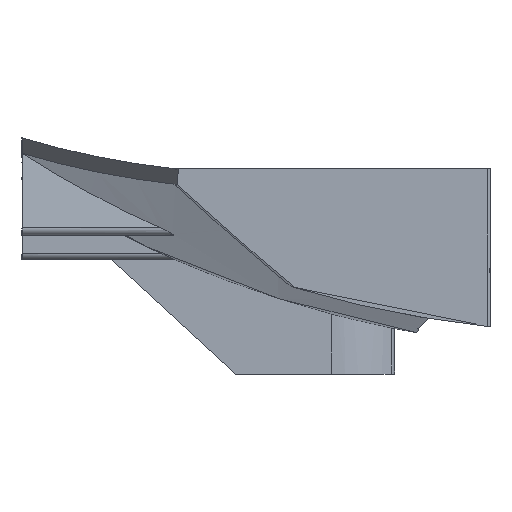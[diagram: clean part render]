
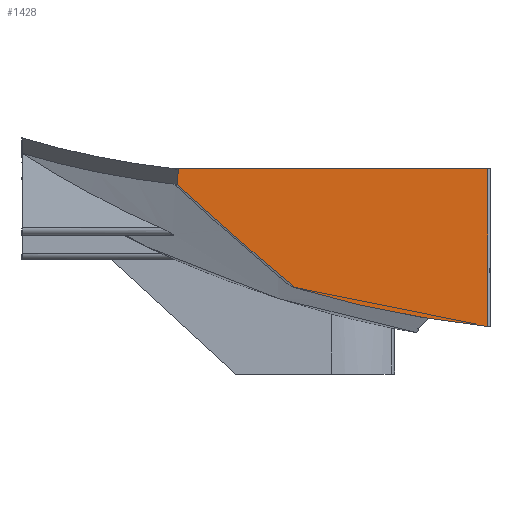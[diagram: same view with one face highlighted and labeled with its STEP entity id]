
A CAD part, left-side view. The second image highlights one B-rep face of the part: STEP entity #1428.
In plain terms, the highlighted planar face has unit normal (-1, 0, 0).
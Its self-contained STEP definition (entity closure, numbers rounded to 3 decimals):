
#37=PLANE('',#1577);
#89=ELLIPSE('',#1570,285.812,190.634);
#137=FACE_OUTER_BOUND('',#226,.T.);
#226=EDGE_LOOP('',(#1093,#1094,#1095,#1096,#1097));
#336=LINE('',#2426,#436);
#344=LINE('',#2451,#444);
#352=LINE('',#2635,#452);
#436=VECTOR('',#1793,10.);
#444=VECTOR('',#1813,10.);
#452=VECTOR('',#1867,10.);
#548=CIRCLE('',#1576,131.105);
#626=VERTEX_POINT('',#2423);
#627=VERTEX_POINT('',#2425);
#637=VERTEX_POINT('',#2448);
#638=VERTEX_POINT('',#2450);
#654=VERTEX_POINT('',#2618);
#782=EDGE_CURVE('',#627,#626,#336,.T.);
#794=EDGE_CURVE('',#638,#637,#344,.T.);
#817=EDGE_CURVE('',#626,#654,#89,.T.);
#824=EDGE_CURVE('',#654,#638,#548,.T.);
#825=EDGE_CURVE('',#627,#637,#352,.T.);
#1093=ORIENTED_EDGE('',*,*,#817,.T.);
#1094=ORIENTED_EDGE('',*,*,#824,.T.);
#1095=ORIENTED_EDGE('',*,*,#794,.T.);
#1096=ORIENTED_EDGE('',*,*,#825,.F.);
#1097=ORIENTED_EDGE('',*,*,#782,.T.);
#1428=ADVANCED_FACE('',(#137),#37,.T.);
#1570=AXIS2_PLACEMENT_3D('',#2620,#1847,#1848);
#1576=AXIS2_PLACEMENT_3D('',#2633,#1863,#1864);
#1577=AXIS2_PLACEMENT_3D('',#2634,#1865,#1866);
#1793=DIRECTION('',(0.,0.093,-0.996));
#1813=DIRECTION('',(0.,0.,1.));
#1847=DIRECTION('center_axis',(-1.,0.,0.));
#1848=DIRECTION('ref_axis',(0.,0.869,0.494));
#1863=DIRECTION('center_axis',(-1.,0.,0.));
#1864=DIRECTION('ref_axis',(0.,0.541,-0.841));
#1865=DIRECTION('center_axis',(-1.,0.,0.));
#1866=DIRECTION('ref_axis',(0.,-1.,0.));
#1867=DIRECTION('',(0.,-1.,0.));
#2423=CARTESIAN_POINT('',(-93.374,37.096,102.267));
#2425=CARTESIAN_POINT('',(-93.374,36.911,104.248));
#2426=CARTESIAN_POINT('',(-93.374,37.904,93.639));
#2448=CARTESIAN_POINT('',(-93.374,-1.,104.248));
#2450=CARTESIAN_POINT('',(-93.374,-1.,84.911));
#2451=CARTESIAN_POINT('',(-93.374,-1.,89.936));
#2618=CARTESIAN_POINT('',(-93.374,22.575,89.639));
#2620=CARTESIAN_POINT('Origin',(-93.374,-132.142,213.663));
#2633=CARTESIAN_POINT('Origin',(-93.374,-14.887,215.278));
#2634=CARTESIAN_POINT('Origin',(-93.374,33.045,94.816));
#2635=CARTESIAN_POINT('',(-93.374,21.522,104.248));
